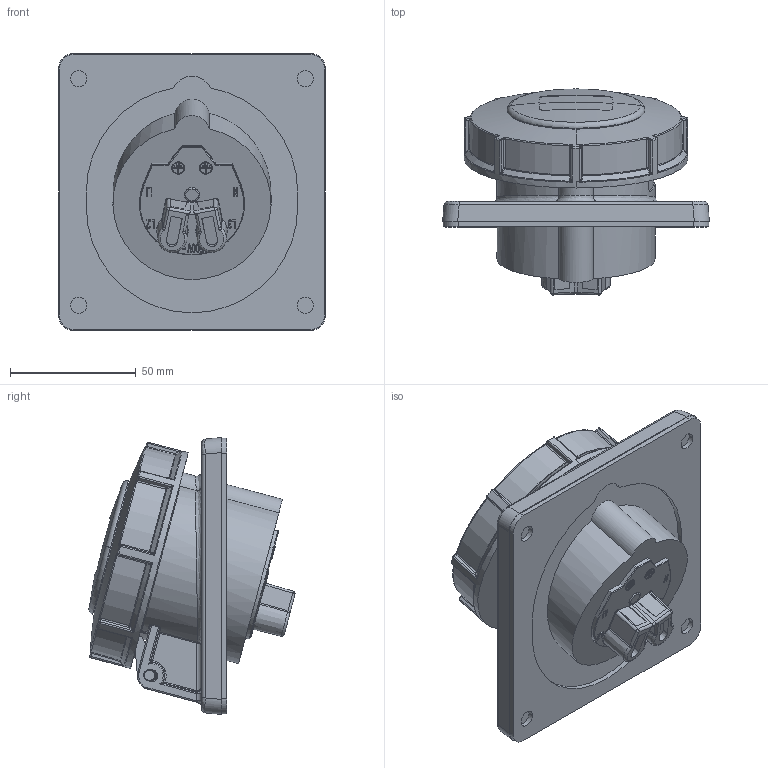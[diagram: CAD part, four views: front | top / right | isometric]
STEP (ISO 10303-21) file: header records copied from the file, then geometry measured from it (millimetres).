
FILE_DESCRIPTION((''),'2;1');
FILE_NAME('3333_DUMMY_SW0001','2017-10-09T',('gisse'),('MENNEKES'),'PRO/ENGINEER BY PARAMETRIC TECHNOLOGY CORPORATION, 2015440','PRO/ENGINEER BY PARAMETRIC TECHNOLOGY CORPORATION, 2015440','');
FILE_SCHEMA(('AUTOMOTIVE_DESIGN { 1 0 10303 214 1 1 1 1 }'));
Products named in the file (1): 3333_DUMMY_SW0001
Bounding box: 106 x 81.9 x 110 mm (x, y, z)
Volume: 336514.2 mm3; surface area: 52325.5 mm2
Topology: 1 solids, 1 shells, 961 faces, 2402 edges, 1487 vertices
Faces by surface type: plane 467, cylinder 172, bspline 172, torus 61, cone 43, sphere 42, extrusion 4
Entity records: 55169 total; most frequent: CARTESIAN_POINT 14647, ORIENTED_EDGE 4798, DIRECTION 3996, PRESENTATION_STYLE_ASSIGNMENT 3343, STYLED_ITEM 2404, CURVE_STYLE 2403, EDGE_CURVE 2399, FILL_AREA_STYLE_COLOUR 1879
